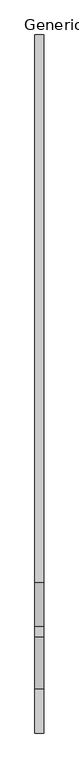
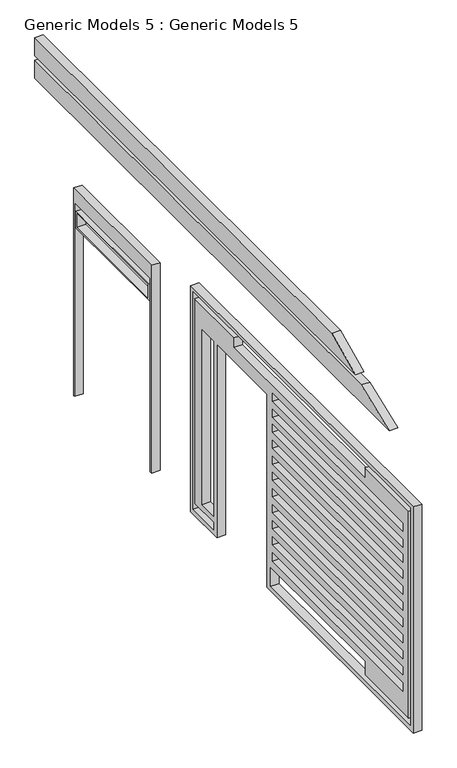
"""IFC4 building model written with IfcOpenShell, lengths in millimetres: proxy geometry, Generic Models 5 : Generic Models 5."""

from ifc_helpers import new_model, si_unit, frame, origin, place, context, project, spatial, polyline, outline, extrude, source, transform, mapped, element, save


def generic_models_5_generic_models_5_67fbaff2(model_context):
    return source(origin(), model_context, "Body", "SweptSolid", [
        extrude(outline(polyline([(23707.0678064, 360.0), (23707.0678064, 2760.0), (22167.0678064, 2760.0), (22167.0678064, 360.0), (22137.0678064, 360.0), (22137.0678064, 2936.7028746), (23722.4424795, 2936.7028746), (23722.4424795, 360.0), (23707.0678064, 360.0)])), frame((30721.2049406, 0.0, 0.0), z_axis=(1.0, 0.0, 0.0), x_axis=(0.0, 1.0, 0.0)), (0.0, 0.0, 1.0), 100.0),
        extrude(outline(polyline([(22182.0678064, 2470.0), (22182.0678064, 2670.0), (23682.0678064, 2670.0), (23682.0678064, 2470.0), (22182.0678064, 2470.0)]), holes=[polyline([(23657.9536145, 2652.7548099), (22217.9536145, 2652.7548099), (22217.9536145, 2487.7548099), (23657.9536145, 2487.7548099), (23657.9536145, 2652.7548099)])]), frame((30721.2049406, 0.0, 0.0), z_axis=(1.0, 0.0, 0.0), x_axis=(0.0, 1.0, 0.0)), (0.0, 0.0, 1.0), 100.0),
        extrude(outline(polyline([(16816.0716817, 3166.2241464), (21346.4158749, 3166.2241464), (21346.4158749, 360.0), (20812.247331, 360.0), (20812.247331, 2760.0), (19796.247331, 2760.0), (19796.247331, 360.0), (16816.0716817, 360.0), (16816.0716817, 3166.2241464)]), holes=[polyline([(16879.2731229, 3115.1431537), (16879.2731229, 420.8591899), (19716.247331, 420.8591899), (19716.247331, 655.6152423), (17800.6598294, 655.6152423), (17800.6598294, 483.9417276), (16916.0716817, 483.9417276), (16916.0716817, 3053.6777642), (17800.6598294, 3053.6777642), (17800.6598294, 2936.7028746), (20460.6598294, 2936.7028746), (20460.6598294, 3053.6777642), (21260.6598294, 3053.6777642), (21260.6598294, 513.6777642), (20879.4841687, 513.6777642), (20879.4841687, 420.8591899), (21299.4841687, 420.8591899), (21299.4841687, 3115.1431537), (16879.2731229, 3115.1431537)]), polyline([(19684.4904768, 2836.7028746), (17024.4904768, 2836.7028746), (17024.4904768, 2736.7028746), (19684.4904768, 2736.7028746), (19684.4904768, 2836.7028746)]), polyline([(19684.4904768, 2636.7028746), (17024.4904768, 2636.7028746), (17024.4904768, 2536.7028746), (19684.4904768, 2536.7028746), (19684.4904768, 2636.7028746)]), polyline([(19684.4904768, 2455.6152423), (17024.4904768, 2455.6152423), (17024.4904768, 2355.6152423), (19684.4904768, 2355.6152423), (19684.4904768, 2455.6152423)]), polyline([(19684.4904768, 2255.6152423), (17024.4904768, 2255.6152423), (17024.4904768, 2155.6152423), (19684.4904768, 2155.6152423), (19684.4904768, 2255.6152423)]), polyline([(19684.4904768, 2055.6152423), (17024.4904768, 2055.6152423), (17024.4904768, 1955.6152423), (19684.4904768, 1955.6152423), (19684.4904768, 2055.6152423)]), polyline([(19684.4904768, 1855.6152423), (17024.4904768, 1855.6152423), (17024.4904768, 1755.6152423), (19684.4904768, 1755.6152423), (19684.4904768, 1855.6152423)]), polyline([(19684.4904768, 1655.6152423), (17024.4904768, 1655.6152423), (17024.4904768, 1555.6152423), (19684.4904768, 1555.6152423), (19684.4904768, 1655.6152423)]), polyline([(19684.4904768, 1455.6152423), (17024.4904768, 1455.6152423), (17024.4904768, 1355.6152423), (19684.4904768, 1355.6152423), (19684.4904768, 1455.6152423)]), polyline([(19684.4904768, 1255.6152423), (17024.4904768, 1255.6152423), (17024.4904768, 1155.6152423), (19684.4904768, 1155.6152423), (19684.4904768, 1255.6152423)]), polyline([(19684.4904768, 1055.6152423), (17024.4904768, 1055.6152423), (17024.4904768, 955.6152423), (19684.4904768, 955.6152423), (19684.4904768, 1055.6152423)]), polyline([(19684.4904768, 855.6152423), (17024.4904768, 855.6152423), (17024.4904768, 755.6152423), (19684.4904768, 755.6152423), (19684.4904768, 855.6152423)]), polyline([(20874.8484707, 2760.0), (20874.8484707, 588.6), (21114.8484707, 588.6), (21114.8484707, 2760.0), (20874.8484707, 2760.0)])]), frame((30721.2049406, 0.0, 0.0), z_axis=(1.0, 0.0, 0.0), x_axis=(0.0, 1.0, 0.0)), (0.0, 0.0, 1.0), 100.0),
        extrude(outline(polyline([(17306.2384141, 3815.7980999), (17872.7957719, 4040.0), (24514.8041741, 4040.0), (24514.8041741, 3815.7980999), (17306.2384141, 3815.7980999)])), frame((30721.2049406, 0.0, 0.0), z_axis=(1.0, 0.0, 0.0), x_axis=(0.0, 1.0, 0.0)), (0.0, 0.0, 1.0), 100.0),
        extrude(outline(polyline([(17992.2554552, 4095.7980999), (18472.2554552, 4320.0), (24514.8041741, 4320.0), (24514.8041741, 4095.7980999), (17992.2554552, 4095.7980999)])), frame((30721.2049406, 0.0, 0.0), z_axis=(1.0, 0.0, 0.0), x_axis=(0.0, 1.0, 0.0)), (0.0, 0.0, 1.0), 100.0),
    ])


if __name__ == "__main__":
    model = new_model("IFC4")
    model_context = context("Model", 3, world=origin())
    ifc_project = project(units=[si_unit("LENGTHUNIT", "METRE", prefix="MILLI")], contexts=[model_context])
    site = spatial("IfcSite", under=ifc_project)
    building = spatial("IfcBuilding", under=site)
    placement = place(None, origin())
    generic_models_5_generic_models_5_shape = generic_models_5_generic_models_5_67fbaff2(model_context)
    element("IfcBuildingElementProxy", 1, Name="Generic Models 5 : Generic Models 5", ObjectType="Generic Models 5 : Generic Models 5", at=placement, inside=building, context=model_context, shape_type="MappedRepresentation", body=[
        mapped(generic_models_5_generic_models_5_shape, transform((0.0, 0.0, 0.0), x_axis=(1.0, 0.0, 0.0), y_axis=(0.0, 1.0, 0.0), z_axis=(0.0, 0.0, 1.0))),
    ])
    save(model, "model.ifc")
